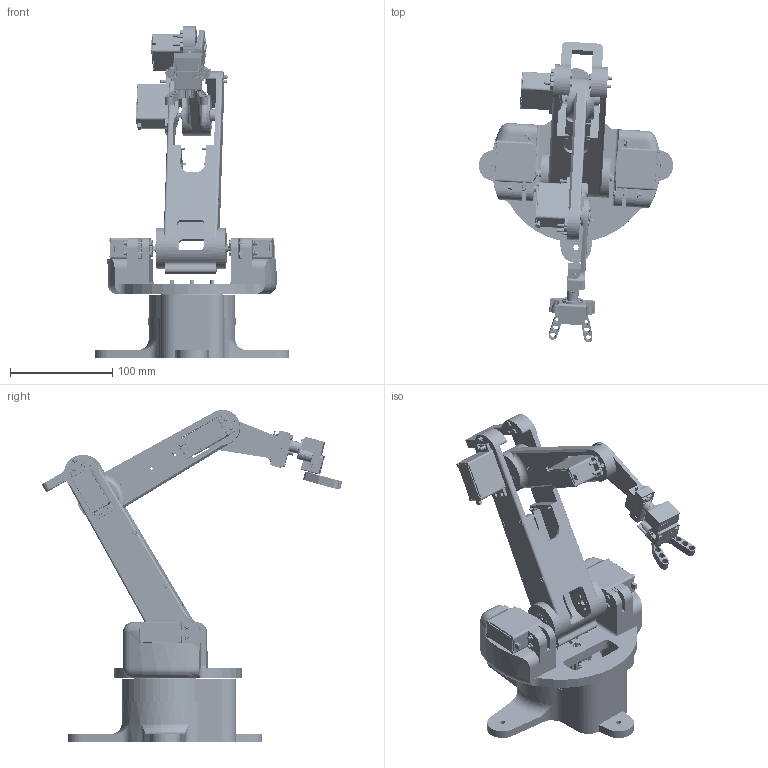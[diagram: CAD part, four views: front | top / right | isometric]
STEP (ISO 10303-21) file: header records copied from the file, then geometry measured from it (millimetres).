
FILE_DESCRIPTION(/* description */ (''),/* implementation_level */ '2;1');
FILE_NAME(/* name */ 'C:\Users\admin\Desktop\inventor\antropomorfo robot M5\step\antropomorrfo_M5.stp',/* time_stamp */ '2021-09-26T11:06:27+02:00',/* author */ ('admin'),/* organization */ (''),/* preprocessor_version */ 'ST-DEVELOPER v18.1',/* originating_system */ 'Autodesk Inventor 2022',/* authorisation */ '');
FILE_SCHEMA (('AUTOMOTIVE_DESIGN { 1 0 10303 214 3 1 1 }'));
Products named in the file (52): Assieme_base_robot_01; Nema17; Bottom_cap; Protective_film_bottom; Bearing_spring; Thick_washer; Rotor; Thick_washer_Thick; Bearing; Stator; Top_cap; Screw; case; STN 02 4645 - B 7002 15 x 32 x 9; EN ISO 7045 - M2,5 x 8 - 4.8 - H; supporto_full; Ingranaggio cilindrico1; Ingranaggio cilindrico2; base_robot; link1; link1_MIR; link2; link3; perno1; frame; %3% BS 290 - SKF 618/8; Servo_20kg; disco2; frame4; ISO 4014 - M3 x 25; ISO 4014 - M3,5 x 25; AS 1112 - M3,5; AS 1112 - M2,5; ISO 4014 - M3 x 20; ISO 4014 - M2 x 16; Assieme_pinza_m5_2gdl_MG90; Assieme_pinza_m5; Ingranaggio cilindrico11; Ingranaggio cilindrico11_MIR; SG90 - Micro Servo 9g - Tower Pro.1_Pea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
Assembly tree (110 placements, depth 4):
  Assieme_base_robot_01
    Nema17
      Bottom_cap
      Protective_film_bottom
      Bearing_spring
      Bearing  x2
      Thick_washer
      Rotor
      Thick_washer_Thick
      Stator
      Top_cap
      Screw  x4
    case
    STN 02 4645 - B 7002 15 x 32 x 9
    EN ISO 7045 - M2,5 x 8 - 4.8 - H  x5
    supporto_full
    Ingranaggio cilindrico1
    Ingranaggio cilindrico2
    base_robot
    Servo_20kg  x4
    link1
    link1_MIR
    link2
    link3
    perno1
    frame
    %3% BS 290 - SKF 618/8
    disco2  x3
    frame4
    ISO 4014 - M3 x 25  x9
    ISO 4014 - M3 x 20  x7
    ISO 4014 - M2 x 16  x11
    ISO 4014 - M3,5 x 25  x6
    AS 1112 - M3,5  x6
    AS 1112 - M2,5  x4
    Assieme_pinza_m5_2gdl_MG90
      Assieme_pinza_m5
        Ingranaggio cilindrico11
        Ingranaggio cilindrico11_MIR
        SG90 - Micro Servo 9g - Tower Pro.1_Pea
        corpo_m5
        AS 1420 - 1973 - M3 x 6
      disco.mg995.Al
      MG90S_assieme_disco_ldb2
        MG90_ldb
        scritta_MG90s  x2
      corpo_MG90
      disco_MG90s
      link2_MG90
      AS 1427 - M2,5 x 8  x6
      AS 1427 - M3 x 12
      Screw GB/T 6561 M2 x 6  x4
Bounding box: 189.89 x 293.15 x 323.95 mm (x, y, z)
Volume: 884763.2 mm3; surface area: 355536.7 mm2
Topology: 164 solids, 164 shells, 8150 faces, 22012 edges, 14419 vertices
Faces by surface type: plane 3204, cylinder 2721, torus 848, cone 655, bspline 583, sphere 139
Full cylindrical faces by diameter (mm): 0.2 x1, 0.5 x1, 1 x3, 1.167 x3, 1.5 x2, 1.509 x4, 1.6 x2, 1.8 x12, 2 x27, 2.013 x4, 2.2 x1, 2.224 x6, 2.256 x5, 2.5 x45, 2.6 x19, 2.693 x1, 2.85 x6, 3 x94, 3.07 x11, 3.2 x1, 3.5 x10, 4 x16, 4.57 x16, 4.7 x2, 4.8 x2, 5 x37, 5.07 x6, 5.5 x1, 6 x9, 7 x8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
Entity records: 191915 total; most frequent: CARTESIAN_POINT 54440, ORIENTED_EDGE 28582, DIRECTION 28345, EDGE_CURVE 14291, AXIS2_PLACEMENT_3D 10716, VERTEX_POINT 9542, LINE 6913, VECTOR 6913
